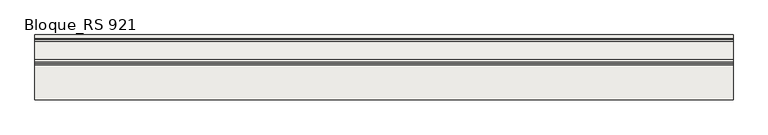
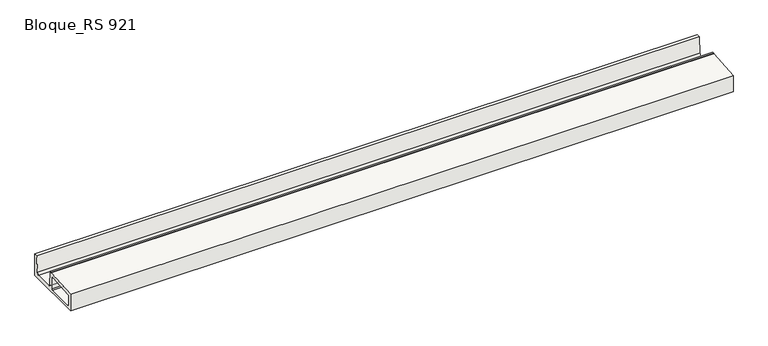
"""IFC4 building model written with IfcOpenShell, lengths in millimetres: slab geometry, ROSA GRES_RS 921 : Bloque_RS 921."""

from ifc_helpers import new_model, si_unit, point, frame, frame_2d, origin, place, context, project, spatial, polyline, circle_curve, trimmed, segment, composite_curve, outline, extrude, source, transform, mapped, element, save


def bloque_rs_921_461cb733(model_context):
    return source(origin(), model_context, "Body", "SweptSolid", [
        extrude(outline(composite_curve([segment(polyline([(572.95, 220.7738447), (572.95, 15.0), (14.0, 15.0), (14.0, 171.045529), (316.0814672, 195.6335554), (315.739238, 199.838085), (329.4801557, 200.9565318), (339.6622462, 68.4547526)]), True, "CONTINUOUS"), segment(trimmed(circle_curve(frame_2d((359.6024621, 70.0)), 20.0), [point((339.6622462, 68.4547526))], [point((359.6024621, 50.0))], True, "CARTESIAN"), True, "CONTINUOUS"), segment(polyline([(359.6024621, 50.0), (513.2975379, 50.0)]), True, "CONTINUOUS"), segment(trimmed(circle_curve(frame_2d((513.2975379, 70.0)), 20.0), [point((513.2975379, 50.0))], [point((533.2377538, 68.4547526))], True, "CARTESIAN"), True, "CONTINUOUS"), segment(polyline([(533.2377538, 68.4547526), (544.8644176, 218.487809), (572.95, 220.7738447)]), True, "CONTINUOUS")], self_intersect=False), holes=[composite_curve([segment(trimmed(circle_curve(frame_2d((294.4200858, 153.7241904)), 8.0), [point((302.4200858, 153.7241904))], [point((293.7710693, 161.6978206))], True, "CARTESIAN"), True, "CONTINUOUS"), segment(polyline([(293.7710693, 161.6978206), (55.7710693, 142.3257276)]), True, "CONTINUOUS"), segment(trimmed(circle_curve(frame_2d((56.4200858, 134.3520974)), 8.0), [point((55.7710693, 142.3257276))], [point((48.4200858, 134.3520974))], True, "CARTESIAN"), True, "CONTINUOUS"), segment(polyline([(48.4200858, 134.3520974), (48.4200858, 50.0)]), True, "CONTINUOUS"), segment(trimmed(circle_curve(frame_2d((56.4200858, 50.0)), 8.0), [point((48.4200858, 50.0))], [point((56.4200858, 42.0))], True, "CARTESIAN"), True, "CONTINUOUS"), segment(polyline([(56.4200858, 42.0), (294.4200858, 42.0)]), True, "CONTINUOUS"), segment(trimmed(circle_curve(frame_2d((294.4200858, 50.0)), 8.0), [point((294.4200858, 42.0))], [point((302.4200858, 50.0))], True, "CARTESIAN"), True, "CONTINUOUS"), segment(polyline([(302.4200858, 50.0), (302.4200858, 153.7241904)]), True, "CONTINUOUS")], self_intersect=False)]), frame((0.0, 0.0, 0.0), z_axis=(1.0, 0.0, 0.0), x_axis=(0.0, 1.0, 0.0)), (0.0, 0.0, 1.0), 5999.75),
    ])


if __name__ == "__main__":
    model = new_model("IFC4")
    model_context = context("Model", 3, world=origin())
    ifc_project = project(units=[si_unit("LENGTHUNIT", "METRE", prefix="MILLI")], contexts=[model_context])
    site = spatial("IfcSite", under=ifc_project)
    building = spatial("IfcBuilding", under=site)
    placement = place(None, origin())
    bloque_rs_921_shape = bloque_rs_921_461cb733(model_context)
    element("IfcSlab", 1, ObjectType="ROSA GRES_RS 921 : Bloque_RS 921", at=placement, inside=building, context=model_context, shape_type="MappedRepresentation", body=[
        mapped(bloque_rs_921_shape, transform((0.0, 0.0, 0.0), x_axis=(1.0, 0.0, 0.0), y_axis=(0.0, 1.0, 0.0), z_axis=(0.0, 0.0, 1.0))),
    ])
    save(model, "model.ifc")
